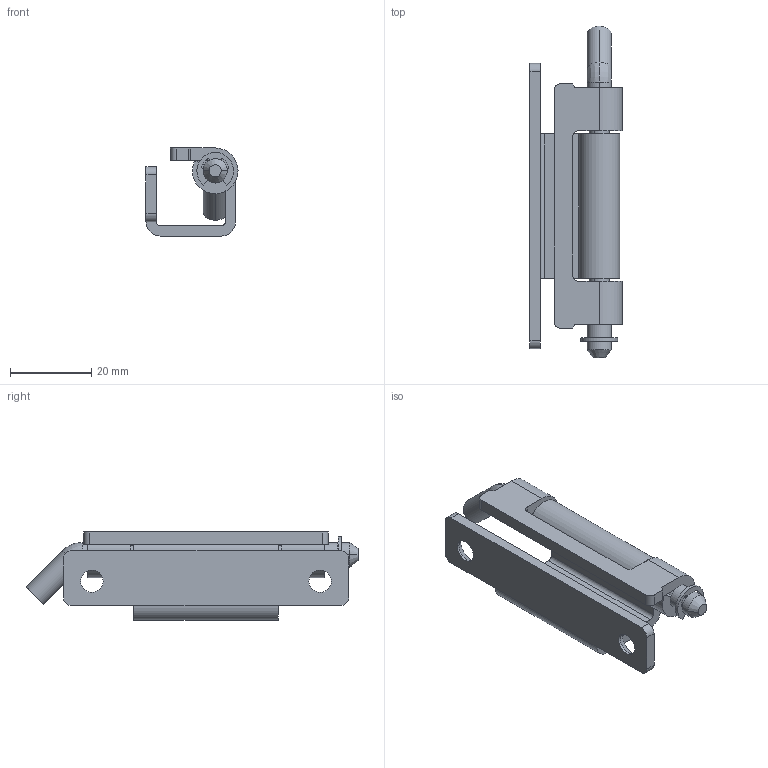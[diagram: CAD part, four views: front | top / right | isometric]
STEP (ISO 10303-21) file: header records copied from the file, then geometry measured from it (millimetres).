
FILE_DESCRIPTION(/* description */ (''),/* implementation_level */ '2;1');
FILE_NAME(/* name */ 'JL275-2',/* time_stamp */ '2024-10-08T13:24:46+08:00',/* author */ (''),/* organization */ (''),/* preprocessor_version */ 'ST-DEVELOPER v19.2',/* originating_system */ 'Rhino 8.5',/* authorisation */ '');
FILE_SCHEMA (('CONFIG_CONTROL_DESIGN'));
Length unit declared in the file: millimetre
Products named in the file (1): Document
Bounding box: 22.6 x 81.49 x 21.6 mm (x, y, z)
Volume: 11390.8 mm3; surface area: 10352.3 mm2
Topology: 4 solids, 4 shells, 92 faces, 226 edges, 146 vertices
Faces by surface type: cylinder 46, plane 38, bspline 8
Entity records: 3048 total; most frequent: CARTESIAN_POINT 1006, ORIENTED_EDGE 452, DIRECTION 282, EDGE_CURVE 226, AXIS2_PLACEMENT_3D 182, VERTEX_POINT 146, EDGE_LOOP 104, TRIMMED_CURVE 98
